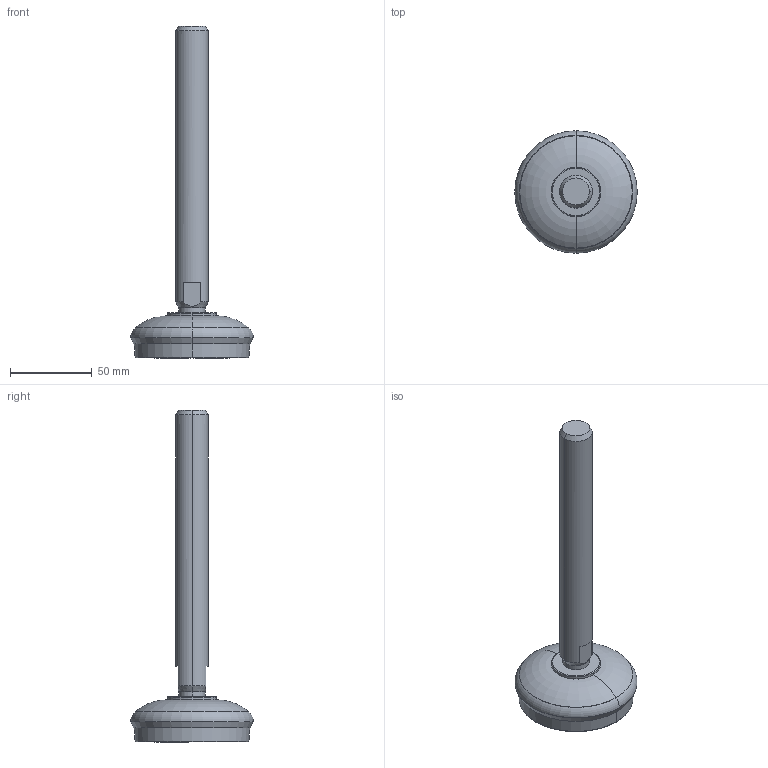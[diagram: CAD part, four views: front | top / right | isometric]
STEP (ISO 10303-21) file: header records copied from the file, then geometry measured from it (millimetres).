
FILE_DESCRIPTION (( 'STEP AP214' ), '1' );
FILE_NAME ('8567822.STEP', '2024-01-24T12:10:43', ( '' ), ( '' ), 'SwSTEP 2.0', 'SolidWorks 2022', '' );
FILE_SCHEMA (( 'AUTOMOTIVE_DESIGN' ));
Length unit declared in the file: millimetre
Products named in the file (1): 8567822
Bounding box: 74.99 x 74.99 x 203.3 mm (x, y, z)
Volume: 148151.5 mm3; surface area: 39572.1 mm2
Topology: 4 solids, 4 shells, 120 faces, 240 edges, 142 vertices
Faces by surface type: cone 36, torus 34, plane 26, cylinder 24
Entity records: 4615 total; most frequent: DIRECTION 652, CARTESIAN_POINT 589, ORIENTED_EDGE 480, AXIS2_PLACEMENT_3D 293, EDGE_CURVE 240, CIRCLE 172, VERTEX_POINT 142, EDGE_LOOP 138
